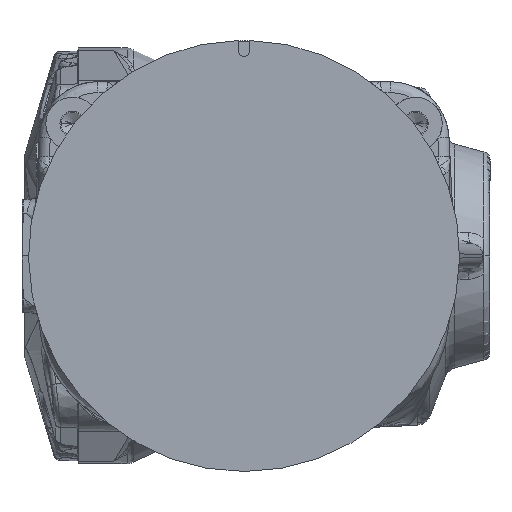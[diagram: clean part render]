
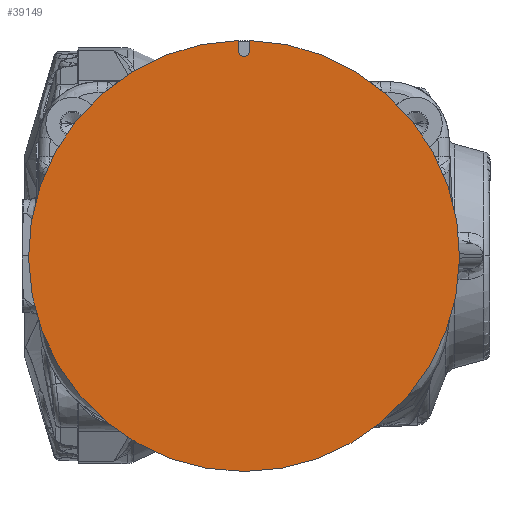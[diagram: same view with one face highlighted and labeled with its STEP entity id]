
A CAD part, left-side view. The second image highlights one B-rep face of the part: STEP entity #39149.
In plain terms, the highlighted planar face has unit normal (-1, 0, 0).
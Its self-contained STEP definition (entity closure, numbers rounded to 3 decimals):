
#3613 = ORIENTED_EDGE ( 'NONE', *, *, #22871, .T. ) ;
#3615 = ORIENTED_EDGE ( 'NONE', *, *, #22925, .F. ) ;
#3618 = ORIENTED_EDGE ( 'NONE', *, *, #22902, .F. ) ;
#3620 = ORIENTED_EDGE ( 'NONE', *, *, #22933, .T. ) ;
#3622 = ORIENTED_EDGE ( 'NONE', *, *, #22873, .T. ) ;
#22786 = CARTESIAN_POINT ( 'NONE',  ( 438., 2., 1333. ) ) ;
#22871 = EDGE_CURVE ( 'NONE', #39300, #39390, #26503, .T. ) ;
#22873 = EDGE_CURVE ( 'NONE', #39390, #38170, #26513, .T. ) ;
#22902 = EDGE_CURVE ( 'NONE', #38143, #38118, #26515, .T. ) ;
#22925 = EDGE_CURVE ( 'NONE', #39300, #38143, #26541, .T. ) ;
#22933 = EDGE_CURVE ( 'NONE', #38170, #38118, #26547, .T. ) ;
#22972 = CARTESIAN_POINT ( 'NONE',  ( 438., 2., 1336.659 ) ) ;
#26494 = VECTOR ( 'NONE', #66723, 1000. ) ;
#26503 = LINE ( 'NONE', #66721, #26494 ) ;
#26513 = CIRCLE ( 'NONE', #61977, 76.686 ) ;
#26515 = LINE ( 'NONE', #66804, #26521 ) ;
#26521 = VECTOR ( 'NONE', #66805, 1000. ) ;
#26541 = CIRCLE ( 'NONE', #61970, 2. ) ;
#26547 = CIRCLE ( 'NONE', #61982, 76.686 ) ;
#33305 = CARTESIAN_POINT ( 'NONE',  ( 438., -2., 1336.659 ) ) ;
#33421 = CARTESIAN_POINT ( 'NONE',  ( 438., -2., 1333. ) ) ;
#33573 = CARTESIAN_POINT ( 'NONE',  ( 438., 0., 1183.314 ) ) ;
#35367 = EDGE_LOOP ( 'NONE', ( #3622, #3620, #3618, #3615, #3613 ) ) ;
#38118 = VERTEX_POINT ( 'NONE', #33305 ) ;
#38143 = VERTEX_POINT ( 'NONE', #33421 ) ;
#38170 = VERTEX_POINT ( 'NONE', #33573 ) ;
#39149 = ADVANCED_FACE ( 'NONE', ( #58650 ), #69618, .F. ) ;
#39300 = VERTEX_POINT ( 'NONE', #22786 ) ;
#39390 = VERTEX_POINT ( 'NONE', #22972 ) ;
#58650 = FACE_OUTER_BOUND ( 'NONE', #35367, .T. ) ;
#60237 = AXIS2_PLACEMENT_3D ( 'NONE', #69616, #69636, #69638 ) ;
#61970 = AXIS2_PLACEMENT_3D ( 'NONE', #66867, #66877, #66879 ) ;
#61977 = AXIS2_PLACEMENT_3D ( 'NONE', #66725, #66727, #66729 ) ;
#61982 = AXIS2_PLACEMENT_3D ( 'NONE', #66927, #66929, #66930 ) ;
#66721 = CARTESIAN_POINT ( 'NONE',  ( 438., 2., 1360. ) ) ;
#66723 = DIRECTION ( 'NONE',  ( 0., 0., 1. ) ) ;
#66725 = CARTESIAN_POINT ( 'NONE',  ( 438., 0., 1260. ) ) ;
#66727 = DIRECTION ( 'NONE',  ( -1., 0., 0. ) ) ;
#66729 = DIRECTION ( 'NONE',  ( 0., 1., 0. ) ) ;
#66804 = CARTESIAN_POINT ( 'NONE',  ( 438., -2., 1336.764 ) ) ;
#66805 = DIRECTION ( 'NONE',  ( 0., 0., 1. ) ) ;
#66867 = CARTESIAN_POINT ( 'NONE',  ( 438., 0., 1333. ) ) ;
#66877 = DIRECTION ( 'NONE',  ( -1., 0., 0. ) ) ;
#66879 = DIRECTION ( 'NONE',  ( 0., -1., 0. ) ) ;
#66927 = CARTESIAN_POINT ( 'NONE',  ( 438., 0., 1260. ) ) ;
#66929 = DIRECTION ( 'NONE',  ( -1., 0., 0. ) ) ;
#66930 = DIRECTION ( 'NONE',  ( 0., 1., 0. ) ) ;
#69616 = CARTESIAN_POINT ( 'NONE',  ( 438., 0., 1360. ) ) ;
#69618 = PLANE ( 'NONE',  #60237 ) ;
#69636 = DIRECTION ( 'NONE',  ( 1., 0., 0. ) ) ;
#69638 = DIRECTION ( 'NONE',  ( 0., 1., 0. ) ) ;
